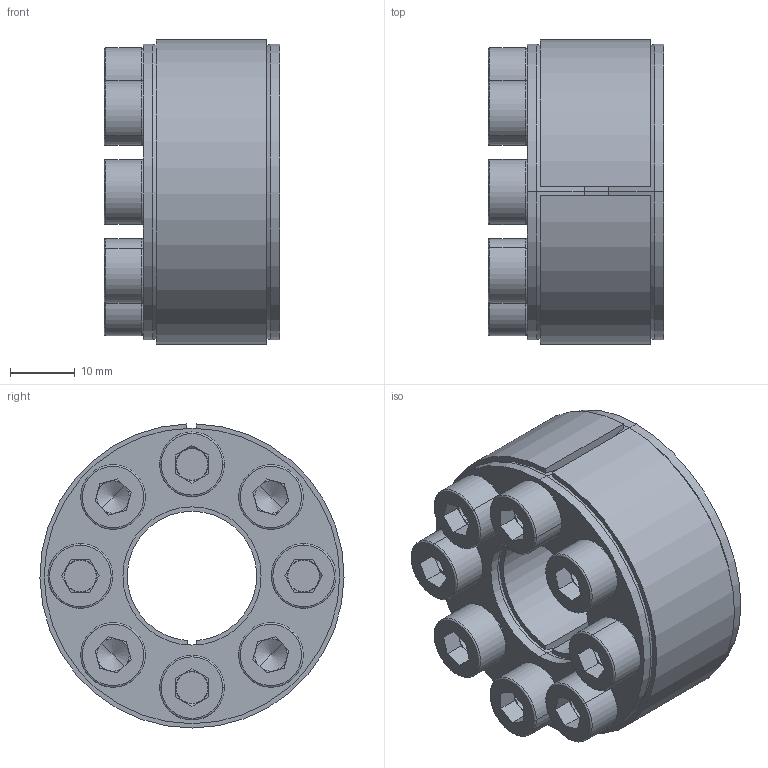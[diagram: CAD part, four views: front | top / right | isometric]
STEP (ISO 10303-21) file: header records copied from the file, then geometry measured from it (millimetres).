
FILE_DESCRIPTION (( 'STEP AP203' ), '1' );
FILE_NAME ('D1-20-47 Assy.STEP', '2017-10-11T03:14:09', ( 'MYCOM' ), ( '' ), 'SwSTEP 2.0', 'SolidWorks 2015', '' );
FILE_SCHEMA (( 'CONFIG_CONTROL_DESIGN' ));
Length unit declared in the file: millimetre
Products named in the file (1): D1-20-47 Assy
Bounding box: 27.14 x 46.99 x 46.99 mm (x, y, z)
Surface area: 13916.5 mm2 (no closed solid volume)
Topology: 0 solids, 20 shells, 240 faces, 587 edges, 358 vertices
Faces by surface type: plane 117, cylinder 59, cone 32, torus 32
Entity records: 7040 total; most frequent: DIRECTION 1327, CARTESIAN_POINT 1226, ORIENTED_EDGE 1047, EDGE_CURVE 579, AXIS2_PLACEMENT_3D 515, VERTEX_POINT 358, VECTOR 297, LINE 297
